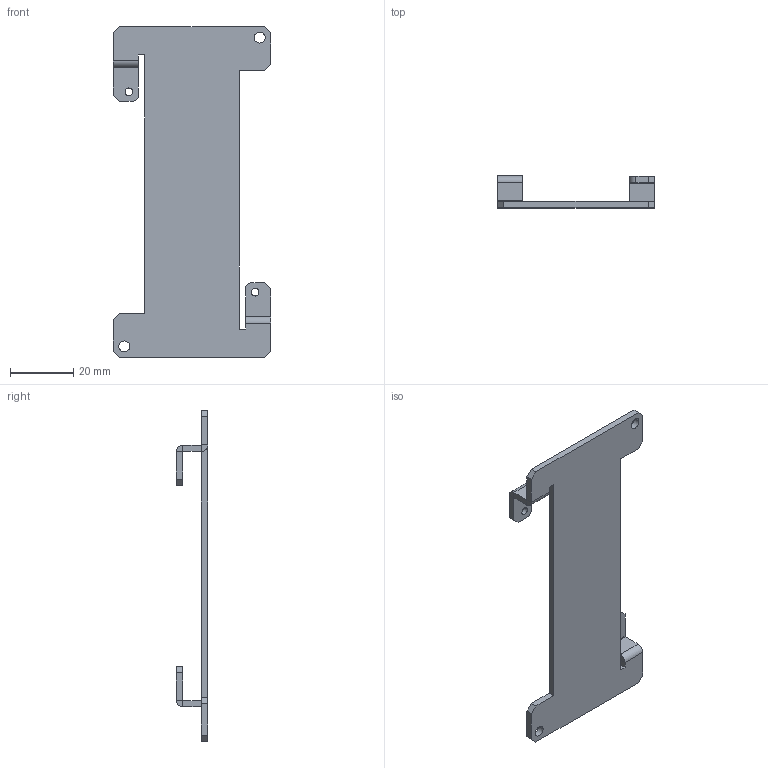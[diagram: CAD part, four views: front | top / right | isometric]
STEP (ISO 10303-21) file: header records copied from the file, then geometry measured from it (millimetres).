
FILE_DESCRIPTION (( 'STEP AP214' ), '1' );
FILE_NAME ('d-21_outline.STEP', '2023-11-07T00:11:54', ( '' ), ( '' ), 'SwSTEP 2.0', 'SolidWorks 2020', '' );
FILE_SCHEMA (( 'AUTOMOTIVE_DESIGN' ));
Length unit declared in the file: millimetre
Products named in the file (1): d-21_outline
Bounding box: 50 x 10 x 105 mm (x, y, z)
Volume: 7824.1 mm3; surface area: 8752.6 mm2
Topology: 1 solids, 1 shells, 157 faces, 418 edges, 268 vertices
Faces by surface type: plane 110, bspline 29, cylinder 18
Entity records: 7047 total; most frequent: CARTESIAN_POINT 1545, ORIENTED_EDGE 836, DIRECTION 654, EDGE_CURVE 418, LINE 324, VECTOR 324, VERTEX_POINT 268, EDGE_LOOP 170
